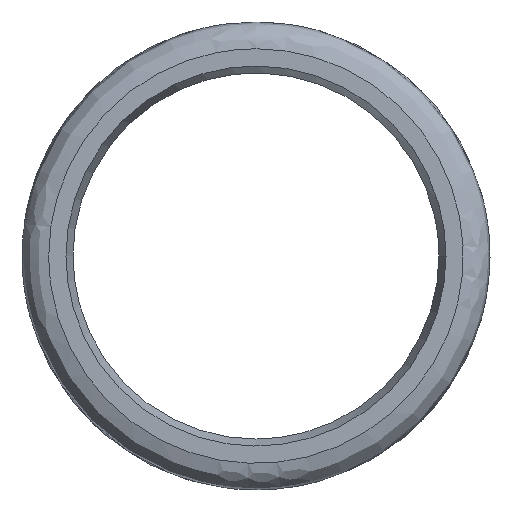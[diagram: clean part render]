
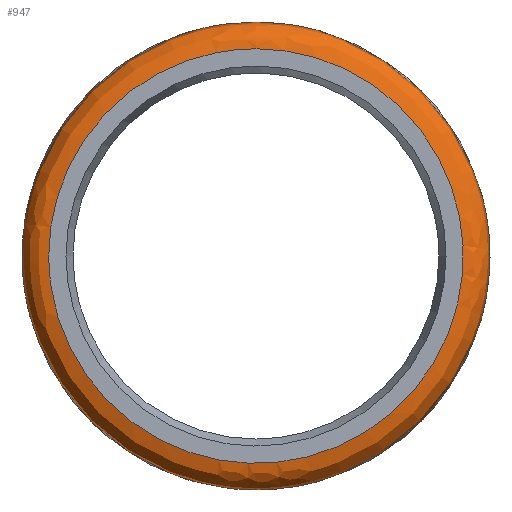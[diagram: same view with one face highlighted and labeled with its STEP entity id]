
A CAD part, left-side view. The second image highlights one B-rep face of the part: STEP entity #947.
In plain terms, the highlighted free-form (B-spline) face has degree [2, 2] with [5, 9] control points.
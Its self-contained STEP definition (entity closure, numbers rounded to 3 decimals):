
#901 = EDGE_CURVE('',#902,#904,#906,.T.);
#902 = VERTEX_POINT('',#903);
#903 = CARTESIAN_POINT('',(0.,58.9,0.));
#904 = VERTEX_POINT('',#905);
#905 = CARTESIAN_POINT('',(0.,0.,58.9));
#906 = ( BOUNDED_CURVE() B_SPLINE_CURVE(2,(#907,#908,#909),
.UNSPECIFIED.,.F.,.F.) B_SPLINE_CURVE_WITH_KNOTS((3,3),(0.,
1.571),.PIECEWISE_BEZIER_KNOTS.) CURVE() 
GEOMETRIC_REPRESENTATION_ITEM() RATIONAL_B_SPLINE_CURVE((1.,
0.707,1.)) REPRESENTATION_ITEM('') );
#907 = CARTESIAN_POINT('',(0.,58.9,0.));
#908 = CARTESIAN_POINT('',(0.,58.9,58.9));
#909 = CARTESIAN_POINT('',(0.,0.,58.9));
#911 = EDGE_CURVE('',#904,#902,#912,.T.);
#912 = ( BOUNDED_CURVE() B_SPLINE_CURVE(2,(#913,#914,#915,#916,#917,#918
,#919),.UNSPECIFIED.,.F.,.F.) B_SPLINE_CURVE_WITH_KNOTS((3,2,2,3),(
    1.571,3.142,4.712,6.283),
.UNSPECIFIED.) CURVE() GEOMETRIC_REPRESENTATION_ITEM() 
RATIONAL_B_SPLINE_CURVE((1.,0.707,1.,0.707,1.,
0.707,1.)) REPRESENTATION_ITEM('') );
#913 = CARTESIAN_POINT('',(0.,0.,58.9));
#914 = CARTESIAN_POINT('',(0.,-58.9,58.9));
#915 = CARTESIAN_POINT('',(0.,-58.9,0.));
#916 = CARTESIAN_POINT('',(0.,-58.9,-58.9));
#917 = CARTESIAN_POINT('',(0.,0.,-58.9));
#918 = CARTESIAN_POINT('',(0.,58.9,-58.9));
#919 = CARTESIAN_POINT('',(0.,58.9,0.));
#947 = ADVANCED_FACE('',(#948),#987,.T.);
#948 = FACE_BOUND('',#949,.T.);
#949 = EDGE_LOOP('',(#950,#960,#970,#976,#984,#985,#986));
#950 = ORIENTED_EDGE('',*,*,#951,.F.);
#951 = EDGE_CURVE('',#952,#954,#956,.T.);
#952 = VERTEX_POINT('',#953);
#953 = CARTESIAN_POINT('',(12.974,64.274,0.));
#954 = VERTEX_POINT('',#955);
#955 = CARTESIAN_POINT('',(12.974,0.,64.274));
#956 = ( BOUNDED_CURVE() B_SPLINE_CURVE(2,(#957,#958,#959),
.UNSPECIFIED.,.F.,.F.) B_SPLINE_CURVE_WITH_KNOTS((3,3),(0.,
1.571),.PIECEWISE_BEZIER_KNOTS.) CURVE() 
GEOMETRIC_REPRESENTATION_ITEM() RATIONAL_B_SPLINE_CURVE((1.,
0.707,1.)) REPRESENTATION_ITEM('') );
#957 = CARTESIAN_POINT('',(12.974,64.274,0.));
#958 = CARTESIAN_POINT('',(12.974,64.274,
    64.274));
#959 = CARTESIAN_POINT('',(12.974,0.,
    64.274));
#960 = ORIENTED_EDGE('',*,*,#961,.F.);
#961 = EDGE_CURVE('',#962,#952,#964,.T.);
#962 = VERTEX_POINT('',#963);
#963 = CARTESIAN_POINT('',(12.974,-64.274,0.));
#964 = ( BOUNDED_CURVE() B_SPLINE_CURVE(2,(#965,#966,#967,#968,#969),
.UNSPECIFIED.,.F.,.F.) B_SPLINE_CURVE_WITH_KNOTS((3,2,3),(3.142,
4.712,6.283),.PIECEWISE_BEZIER_KNOTS.) CURVE() 
GEOMETRIC_REPRESENTATION_ITEM() RATIONAL_B_SPLINE_CURVE((1.,
0.707,1.,0.707,1.)) REPRESENTATION_ITEM('') );
#965 = CARTESIAN_POINT('',(12.974,-64.274,
    0.));
#966 = CARTESIAN_POINT('',(12.974,-64.274,
    -64.274));
#967 = CARTESIAN_POINT('',(12.974,0.,
    -64.274));
#968 = CARTESIAN_POINT('',(12.974,64.274,
    -64.274));
#969 = CARTESIAN_POINT('',(12.974,64.274,
    0.));
#970 = ORIENTED_EDGE('',*,*,#971,.F.);
#971 = EDGE_CURVE('',#954,#962,#972,.T.);
#972 = ( BOUNDED_CURVE() B_SPLINE_CURVE(2,(#973,#974,#975),
.UNSPECIFIED.,.F.,.F.) B_SPLINE_CURVE_WITH_KNOTS((3,3),(1.571,
3.142),.PIECEWISE_BEZIER_KNOTS.) CURVE() 
GEOMETRIC_REPRESENTATION_ITEM() RATIONAL_B_SPLINE_CURVE((1.,
0.707,1.)) REPRESENTATION_ITEM('') );
#973 = CARTESIAN_POINT('',(12.974,0.,
    64.274));
#974 = CARTESIAN_POINT('',(12.974,-64.274,
    64.274));
#975 = CARTESIAN_POINT('',(12.974,-64.274,
    0.));
#976 = ORIENTED_EDGE('',*,*,#977,.T.);
#977 = EDGE_CURVE('',#954,#904,#978,.T.);
#978 = ( BOUNDED_CURVE() B_SPLINE_CURVE(2,(#979,#980,#981,#982,#983),
.UNSPECIFIED.,.F.,.F.) B_SPLINE_CURVE_WITH_KNOTS((3,2,3),(
-0.785,0.393,1.571),.UNSPECIFIED.) CURVE() 
GEOMETRIC_REPRESENTATION_ITEM() RATIONAL_B_SPLINE_CURVE((1.,
0.831,1.,0.831,1.)) REPRESENTATION_ITEM('') );
#979 = CARTESIAN_POINT('',(12.974,0.,64.274));
#980 = CARTESIAN_POINT('',(9.383,0.,67.865));
#981 = CARTESIAN_POINT('',(4.692,0.,65.921));
#982 = CARTESIAN_POINT('',(0.,0.,63.978));
#983 = CARTESIAN_POINT('',(0.,0.,58.9));
#984 = ORIENTED_EDGE('',*,*,#911,.T.);
#985 = ORIENTED_EDGE('',*,*,#901,.T.);
#986 = ORIENTED_EDGE('',*,*,#977,.F.);
#987 = ( BOUNDED_SURFACE() B_SPLINE_SURFACE(2,2,(
    (#988,#989,#990,#991,#992,#993,#994,#995,#996)
    ,(#997,#998,#999,#1000,#1001,#1002,#1003,#1004,#1005)
    ,(#1006,#1007,#1008,#1009,#1010,#1011,#1012,#1013,#1014)
    ,(#1015,#1016,#1017,#1018,#1019,#1020,#1021,#1022,#1023)
    ,(#1024,#1025,#1026,#1027,#1028,#1029,#1030,#1031,#1032
)),.UNSPECIFIED.,.F.,.T.,.F.) B_SPLINE_SURFACE_WITH_KNOTS((3,2,3),(1,2,2
    ,2,2,2,1),(-1.571,-0.393,0.785),(
    -4.712,-3.142,-1.571,0.,1.571,
    3.142,4.712),.UNSPECIFIED.) 
GEOMETRIC_REPRESENTATION_ITEM() RATIONAL_B_SPLINE_SURFACE((
    (1.,0.707,1.,0.707,1.,0.707,1.
      ,0.707,1.)
    ,(0.831,0.588,0.831,0.588
      ,0.831,0.588,0.831,0.588
      ,0.831)
    ,(1.,0.707,1.,0.707,1.,0.707,1.
      ,0.707,1.)
    ,(0.831,0.588,0.831,0.588
      ,0.831,0.588,0.831,0.588
      ,0.831)
    ,(1.,0.707,1.,0.707,1.,0.707,1.
,0.707,1.))) REPRESENTATION_ITEM('') SURFACE() );
#988 = CARTESIAN_POINT('',(12.974,0.,64.274));
#989 = CARTESIAN_POINT('',(12.974,-64.274,
    64.274));
#990 = CARTESIAN_POINT('',(12.974,-64.274,0.));
#991 = CARTESIAN_POINT('',(12.974,-64.274,
    -64.274));
#992 = CARTESIAN_POINT('',(12.974,0.,-64.274));
#993 = CARTESIAN_POINT('',(12.974,64.274,
    -64.274));
#994 = CARTESIAN_POINT('',(12.974,64.274,0.));
#995 = CARTESIAN_POINT('',(12.974,64.274,
    64.274));
#996 = CARTESIAN_POINT('',(12.974,0.,64.274));
#997 = CARTESIAN_POINT('',(9.383,0.,67.865));
#998 = CARTESIAN_POINT('',(9.383,-67.865,
    67.865));
#999 = CARTESIAN_POINT('',(9.383,-67.865,0.));
#1000 = CARTESIAN_POINT('',(9.383,-67.865,
    -67.865));
#1001 = CARTESIAN_POINT('',(9.383,0.,-67.865));
#1002 = CARTESIAN_POINT('',(9.383,67.865,
    -67.865));
#1003 = CARTESIAN_POINT('',(9.383,67.865,0.));
#1004 = CARTESIAN_POINT('',(9.383,67.865,
    67.865));
#1005 = CARTESIAN_POINT('',(9.383,0.,67.865));
#1006 = CARTESIAN_POINT('',(4.692,0.,65.921));
#1007 = CARTESIAN_POINT('',(4.692,-65.921,
    65.921));
#1008 = CARTESIAN_POINT('',(4.692,-65.921,0.));
#1009 = CARTESIAN_POINT('',(4.692,-65.921,
    -65.921));
#1010 = CARTESIAN_POINT('',(4.692,0.,-65.921));
#1011 = CARTESIAN_POINT('',(4.692,65.921,
    -65.921));
#1012 = CARTESIAN_POINT('',(4.692,65.921,0.));
#1013 = CARTESIAN_POINT('',(4.692,65.921,
    65.921));
#1014 = CARTESIAN_POINT('',(4.692,0.,65.921));
#1015 = CARTESIAN_POINT('',(0.,0.,63.978));
#1016 = CARTESIAN_POINT('',(0.,-63.978,
    63.978));
#1017 = CARTESIAN_POINT('',(0.,-63.978,0.));
#1018 = CARTESIAN_POINT('',(0.,-63.978,
    -63.978));
#1019 = CARTESIAN_POINT('',(0.,0.,-63.978));
#1020 = CARTESIAN_POINT('',(0.,63.978,
    -63.978));
#1021 = CARTESIAN_POINT('',(0.,63.978,0.));
#1022 = CARTESIAN_POINT('',(0.,63.978,
    63.978));
#1023 = CARTESIAN_POINT('',(0.,0.,63.978));
#1024 = CARTESIAN_POINT('',(0.,0.,58.9));
#1025 = CARTESIAN_POINT('',(0.,-58.9,58.9));
#1026 = CARTESIAN_POINT('',(0.,-58.9,0.));
#1027 = CARTESIAN_POINT('',(0.,-58.9,-58.9));
#1028 = CARTESIAN_POINT('',(0.,0.,-58.9));
#1029 = CARTESIAN_POINT('',(0.,58.9,-58.9));
#1030 = CARTESIAN_POINT('',(0.,58.9,0.));
#1031 = CARTESIAN_POINT('',(0.,58.9,58.9));
#1032 = CARTESIAN_POINT('',(0.,0.,58.9));
